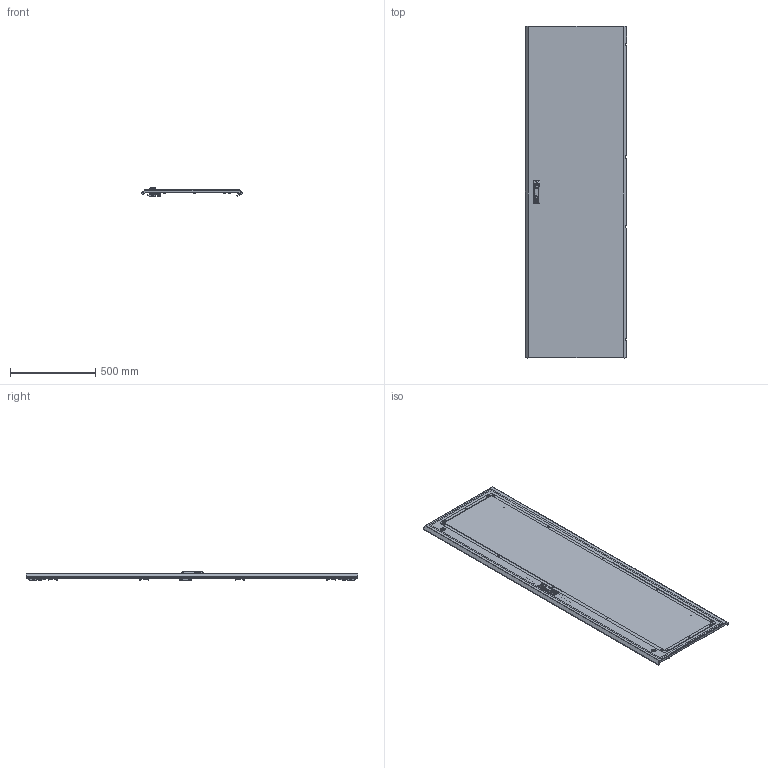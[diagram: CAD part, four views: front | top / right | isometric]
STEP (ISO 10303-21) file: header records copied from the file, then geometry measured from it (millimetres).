
FILE_DESCRIPTION (( 'STEP AP203' ), '1' );
FILE_NAME ('MA1.200.060620.30.00 AleSta-D20M600 Äâåðü ñïëîøíàÿ äëÿ øêàôîâ ALESTA ÂõØ 2000õ600.STEP', '2025-02-19T14:11:22', ( '' ), ( '' ), 'SwSTEP 2.0', 'SolidWorks 2021', '' );
FILE_SCHEMA (( 'CONFIG_CONTROL_DESIGN' ));
Length unit declared in the file: millimetre
Products named in the file (23): MA1.200.060620.31.04 需沐朦_惃％; MA1.200.060620.31.01 Ïîëîòíî äâåðè ñïëîøíîé 2000õ600_\‚=2000; MA1.200.060620.31.05 Óãëîâîé óïîð äâåðíîé òÿãè; MA1.200.060620.31.00 Äâåðü ñïëîøíàÿ äëÿ øêàôîâ ALESTA ÂõØ 2000õ600_2000å600; MS463-2-3(1); Øïèëüêà Ì6õ12_˜¯¨«ìª  Œ6å16; MA1.200.060620.31.02 Ðåéêà íà äâåðü âåðòèêàëüíàÿ Â = 2000_‚ =2000; MA1.200.060620.30.00 AleSta-D20M600 Äâåðü ñïëîøíàÿ äëÿ øêàôîâ ALESTA ÂõØ 2000õ600; Øïèëüêà Ì6õ12_˜¯¨«ìª  Œ6å20; MA1.200.060620.31.03 Ðåéêà íà äâåðü ãîðèçîíòàëüíàÿ Ø = 600_˜ = 600; 諘蜱齁罻 022 瀁錒瀔隮; Óïëîòíèòåëü ïàíåëè íèæíåé_‚=2000; êðåïëåíèå_êðóãëîé_òÿãè_RG1020-1.stp; äåðæàòåëü_êðóãëîé_òÿãèRG002-RG1010-2-i-RG1010-3-.stp; Îñü ïåòëè 4õ52_‚¨­â A.M4x0,5x40 ƒŽ‘’ 11644-75; Ãàéêà ñàìîêîíòðÿùàÿñÿ ñ íåéëîíîâîé âñòàâêîé Ì6 DIN 985, êëàññ ïðî÷íîñòè 8, îöèíêîâàííàÿ ñòàëü_Œ5; Âèíò_ðåçüáîâûäàâëèâàþùèé_Ì5õ12_DIN 7500E_Œ5å12; Âèíò ñàìîíàðåçàþùèé ñ ïîòàéíîé ãîëîâêîé Ì5x16 DIN 7500 M TORX, êëàññ ïðî÷íîñòè 8.8, îöèíêîâàííàÿ ñòàëü_Œ5å16; Áîëò øåñòèãðàííûé Ì5õ12 DIN 933, êëàññ ïðî÷íîñòè 8.8, îöèíêîâàííàÿ ñòàëü; Íàâåñêà íà êîðïóñ ïîä êëåïêó; òÿãà_lg001-2.STEP_‚=2000; MA1.200.060620.31.06 赶鎀鍧_100 洵; Ãàéêà ñàìîêîíòðÿùàÿñÿ ñ íåéëîíîâîé âñòàâêîé Ì6 DIN 985, êëàññ ïðî÷íîñòè 8, îöèíêîâàííàÿ ñòàëü_Œ6
Assembly tree (84 placements, depth 3):
  MA1.200.060620.30.00 AleSta-D20M600 Äâåðü ñïëîøíàÿ äëÿ øêàôîâ ALESTA ÂõØ 2000õ600
    MA1.200.060620.31.00 Äâåðü ñïëîøíàÿ äëÿ øêàôîâ ALESTA ÂõØ 2000õ600_2000å600
      MA1.200.060620.31.01 Ïîëîòíî äâåðè ñïëîøíîé 2000õ600_\‚=2000
      Óïëîòíèòåëü ïàíåëè íèæíåé_‚=2000
      Øïèëüêà Ì6õ12_˜¯¨«ìª  Œ6å20  x16
      Øïèëüêà Ì6õ12_˜¯¨«ìª  Œ6å16  x4
    MA1.200.060620.31.03 Ðåéêà íà äâåðü ãîðèçîíòàëüíàÿ Ø = 600_˜ = 600  x2
    諘蜱齁罻 022 瀁錒瀔隮  x4
    MA1.200.060620.31.02 Ðåéêà íà äâåðü âåðòèêàëüíàÿ Â = 2000_‚ =2000  x2
    äåðæàòåëü_êðóãëîé_òÿãèRG002-RG1010-2-i-RG1010-3-.stp  x2
    òÿãà_lg001-2.STEP_‚=2000  x2
    êðåïëåíèå_êðóãëîé_òÿãè_RG1020-1.stp  x2
    MS463-2-3(1)
    Ãàéêà ñàìîêîíòðÿùàÿñÿ ñ íåéëîíîâîé âñòàâêîé Ì6 DIN 985, êëàññ ïðî÷íîñòè 8, îöèíêîâàííàÿ ñòàëü_Œ6  x16
    Ãàéêà ñàìîêîíòðÿùàÿñÿ ñ íåéëîíîâîé âñòàâêîé Ì6 DIN 985, êëàññ ïðî÷íîñòè 8, îöèíêîâàííàÿ ñòàëü_Œ5  x2
    Áîëò øåñòèãðàííûé Ì5õ12 DIN 933, êëàññ ïðî÷íîñòè 8.8, îöèíêîâàííàÿ ñòàëü  x2
    MA1.200.060620.31.05 Óãëîâîé óïîð äâåðíîé òÿãè  x2
    Âèíò_ðåçüáîâûäàâëèâàþùèé_Ì5õ12_DIN 7500E_Œ5å12  x6
    Íàâåñêà íà êîðïóñ ïîä êëåïêó  x4
    Îñü ïåòëè 4õ52_‚¨­â A.M4x0,5x40 ƒŽ‘’ 11644-75  x4
    Âèíò ñàìîíàðåçàþùèé ñ ïîòàéíîé ãîëîâêîé Ì5x16 DIN 7500 M TORX, êëàññ ïðî÷íîñòè 8.8, îöèíêîâàííàÿ ñòàëü_Œ5å16  x8
    MA1.200.060620.31.04 需沐朦_惃％
    MA1.200.060620.31.06 赶鎀鍧_100 洵
Bounding box: 591.81 x 1945 x 52.53 mm (x, y, z)
Volume: 2689997.2 mm3; surface area: 3270721.7 mm2
Topology: 118 solids, 132 shells, 6101 faces, 15144 edges, 9228 vertices
Faces by surface type: plane 2445, cylinder 2439, bspline 661, cone 261, torus 197, sphere 98
Entity records: 139586 total; most frequent: CARTESIAN_POINT 58828, ORIENTED_EDGE 16314, DIRECTION 15337, EDGE_CURVE 8174, AXIS2_PLACEMENT_3D 5483, VERTEX_POINT 5108, VECTOR 4371, LINE 4371
